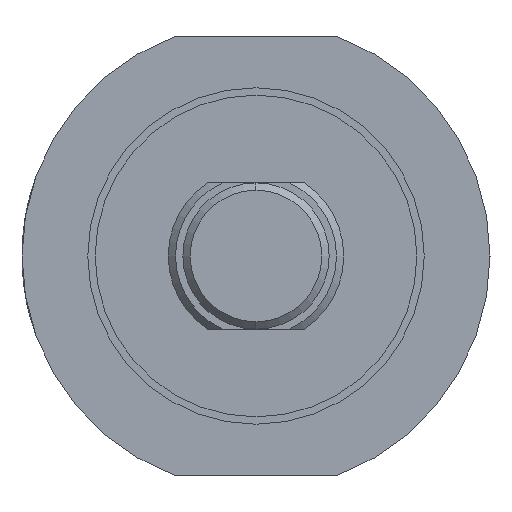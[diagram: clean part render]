
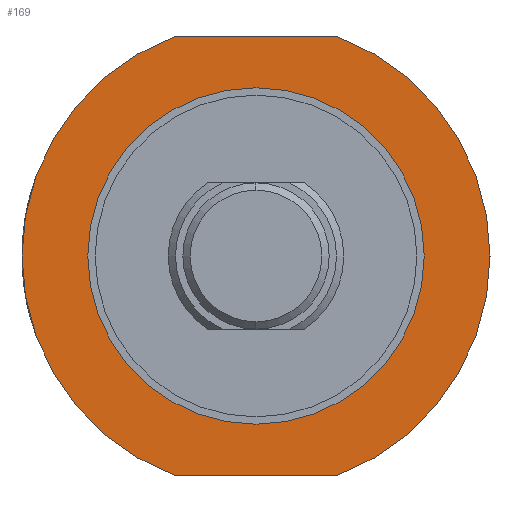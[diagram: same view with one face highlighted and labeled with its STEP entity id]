
A CAD part, left-side view. The second image highlights one B-rep face of the part: STEP entity #169.
In plain terms, the highlighted planar face has unit normal (-1, 0, 0).
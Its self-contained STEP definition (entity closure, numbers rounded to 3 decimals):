
#93 = EDGE_LOOP ( 'NONE', ( #1345, #1558, #1567, #1450 ) ) ;
#146 = DIRECTION ( 'NONE',  ( 0., -1., 0. ) ) ;
#150 = DIRECTION ( 'NONE',  ( 0., 0., 1. ) ) ;
#169 = ADVANCED_FACE ( 'NONE', ( #1361, #512 ), #425, .F. ) ;
#171 = VERTEX_POINT ( 'NONE', #1601 ) ;
#194 = CARTESIAN_POINT ( 'NONE',  ( 42., 5.568, -15. ) ) ;
#278 = AXIS2_PLACEMENT_3D ( 'NONE', #1517, #684, #1313 ) ;
#330 = EDGE_CURVE ( 'NONE', #578, #379, #340, .T. ) ;
#340 = CIRCLE ( 'NONE', #1322, 11.5 ) ;
#379 = VERTEX_POINT ( 'NONE', #1435 ) ;
#394 = EDGE_CURVE ( 'NONE', #379, #578, #533, .T. ) ;
#425 = PLANE ( 'NONE',  #1462 ) ;
#499 = CARTESIAN_POINT ( 'NONE',  ( 42., 11.874, 15. ) ) ;
#512 = FACE_OUTER_BOUND ( 'NONE', #93, .T. ) ;
#533 = CIRCLE ( 'NONE', #1083, 11.5 ) ;
#578 = VERTEX_POINT ( 'NONE', #1614 ) ;
#630 = ORIENTED_EDGE ( 'NONE', *, *, #330, .F. ) ;
#642 = CIRCLE ( 'NONE', #1545, 16. ) ;
#652 = DIRECTION ( 'NONE',  ( 1., 0., 0. ) ) ;
#684 = DIRECTION ( 'NONE',  ( -1., 0., 0. ) ) ;
#697 = CARTESIAN_POINT ( 'NONE',  ( 42., 0., 0. ) ) ;
#703 = LINE ( 'NONE', #1635, #1002 ) ;
#835 = DIRECTION ( 'NONE',  ( 0., 0., 1. ) ) ;
#854 = ORIENTED_EDGE ( 'NONE', *, *, #394, .F. ) ;
#911 = VECTOR ( 'NONE', #146, 1000. ) ;
#917 = DIRECTION ( 'NONE',  ( 0., 0., -1. ) ) ;
#944 = DIRECTION ( 'NONE',  ( -1., 0., 0. ) ) ;
#971 = DIRECTION ( 'NONE',  ( -1., 0., 0. ) ) ;
#973 = CARTESIAN_POINT ( 'NONE',  ( 42., -5.568, -15. ) ) ;
#1002 = VECTOR ( 'NONE', #1573, 1000. ) ;
#1005 = EDGE_CURVE ( 'NONE', #1172, #1444, #1040, .T. ) ;
#1013 = LINE ( 'NONE', #499, #911 ) ;
#1040 = CIRCLE ( 'NONE', #278, 16. ) ;
#1083 = AXIS2_PLACEMENT_3D ( 'NONE', #1216, #971, #1576 ) ;
#1172 = VERTEX_POINT ( 'NONE', #1193 ) ;
#1193 = CARTESIAN_POINT ( 'NONE',  ( 42., 5.568, 15. ) ) ;
#1212 = EDGE_CURVE ( 'NONE', #1172, #171, #1013, .T. ) ;
#1216 = CARTESIAN_POINT ( 'NONE',  ( 42., 0., 0. ) ) ;
#1237 = EDGE_CURVE ( 'NONE', #1508, #171, #642, .T. ) ;
#1313 = DIRECTION ( 'NONE',  ( 0., 0., 1. ) ) ;
#1322 = AXIS2_PLACEMENT_3D ( 'NONE', #1539, #944, #835 ) ;
#1342 = EDGE_CURVE ( 'NONE', #1508, #1444, #703, .T. ) ;
#1345 = ORIENTED_EDGE ( 'NONE', *, *, #1005, .T. ) ;
#1361 = FACE_BOUND ( 'NONE', #1481, .T. ) ;
#1387 = CARTESIAN_POINT ( 'NONE',  ( 42., 0., -16. ) ) ;
#1435 = CARTESIAN_POINT ( 'NONE',  ( 42., 0., 11.5 ) ) ;
#1444 = VERTEX_POINT ( 'NONE', #194 ) ;
#1450 = ORIENTED_EDGE ( 'NONE', *, *, #1212, .F. ) ;
#1462 = AXIS2_PLACEMENT_3D ( 'NONE', #1387, #652, #917 ) ;
#1481 = EDGE_LOOP ( 'NONE', ( #854, #630 ) ) ;
#1508 = VERTEX_POINT ( 'NONE', #973 ) ;
#1517 = CARTESIAN_POINT ( 'NONE',  ( 42., 0., 0. ) ) ;
#1539 = CARTESIAN_POINT ( 'NONE',  ( 42., 0., 0. ) ) ;
#1545 = AXIS2_PLACEMENT_3D ( 'NONE', #697, #1660, #150 ) ;
#1558 = ORIENTED_EDGE ( 'NONE', *, *, #1342, .F. ) ;
#1567 = ORIENTED_EDGE ( 'NONE', *, *, #1237, .T. ) ;
#1573 = DIRECTION ( 'NONE',  ( 0., 1., 0. ) ) ;
#1576 = DIRECTION ( 'NONE',  ( 0., 0., 1. ) ) ;
#1601 = CARTESIAN_POINT ( 'NONE',  ( 42., -5.568, 15. ) ) ;
#1614 = CARTESIAN_POINT ( 'NONE',  ( 42., 0., -11.5 ) ) ;
#1635 = CARTESIAN_POINT ( 'NONE',  ( 42., 11.874, -15. ) ) ;
#1660 = DIRECTION ( 'NONE',  ( -1., 0., 0. ) ) ;
